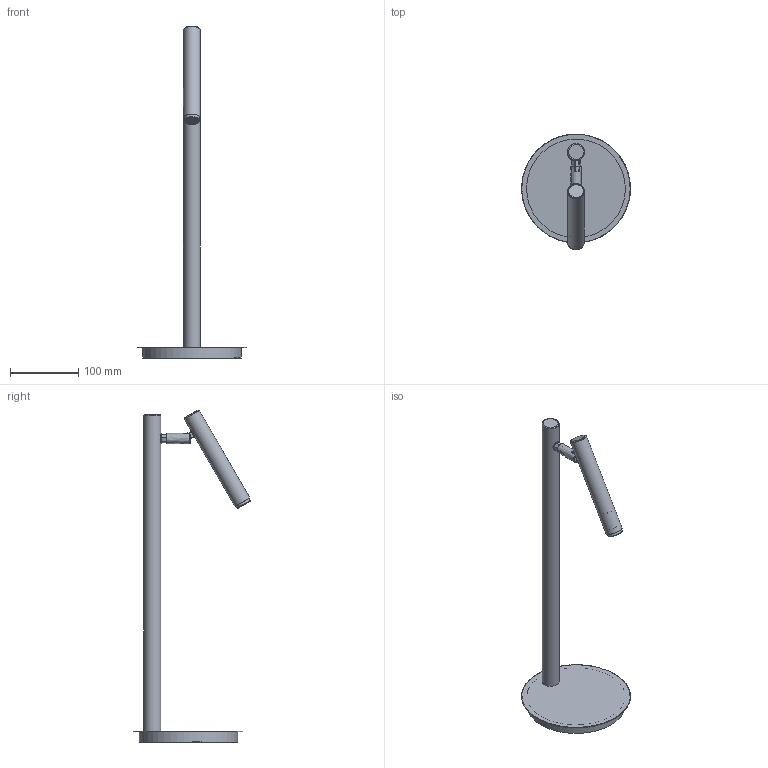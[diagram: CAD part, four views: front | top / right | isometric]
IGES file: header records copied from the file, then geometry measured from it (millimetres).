
Global section: file name: D:\\_Liczy si\X2\0119\X0\ s\X2\0142\X0\owo\\_Modelowanie SIGMA\\Sopel lampka\\gotowe\\SOPEL lampka.igs; native system: HarmonyWare Translators; preprocessor: HarmonyWare IGES v2.1.4; date: 20251124.111854; units: centimetre
Bounding box: 159.96 x 170.96 x 487.96 mm (x, y, z)
Volume: 522170.3 mm3; surface area: 152770.5 mm2
Topology: 11 solids, 11 shells, 286 faces, 2388 edges, 2318 vertices
Faces by surface type: bspline 286
